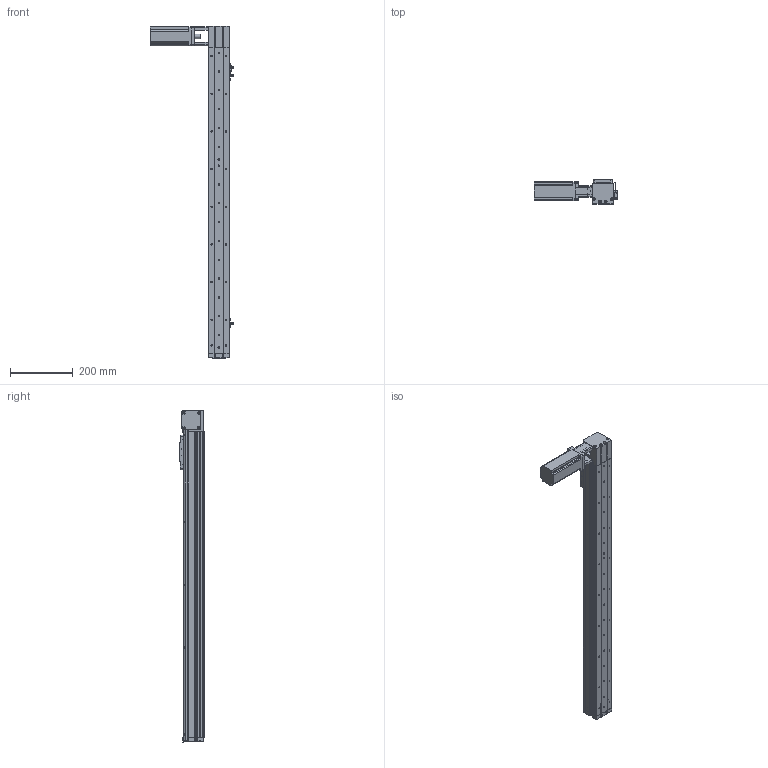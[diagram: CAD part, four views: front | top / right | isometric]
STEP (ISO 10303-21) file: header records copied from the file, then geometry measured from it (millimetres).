
FILE_DESCRIPTION (( 'STEP AP214' ), '1' );
FILE_NAME ('KSD68BS-S800-MLT-CR.STEP', '2019-08-28T03:32:22', ( '微软用户' ), ( '微软中国' ), 'SwSTEP 2.0', 'SolidWorks 2014', '' );
FILE_SCHEMA (( 'AUTOMOTIVE_DESIGN' ));
Length unit declared in the file: millimetre
Products named in the file (13): KSD68BS 800行程侧板全封闭; 68宽单导轨全封闭同步带端板; 68单导轨全封闭同步带电机座右; 68单导轨全封闭同步带安装板; 感应片68宽全封闭; U倰嫖萇EEㄜSX672; 台达ECMA－C20604AS伺服电机（400W); KSD68BS 800行程底板全封闭; KSD68BS-S800-MLT-CR; 100遵鎮湛假蚾啣1; KSD68BS 800行程盖板全封闭; 68遵裔啣揤啣1; 68宽单导轨全封闭丝杆传动安装板1防护罩
Assembly tree (16 placements, depth 2):
  KSD68BS-S800-MLT-CR
    KSD68BS 800行程底板全封闭
    台达ECMA－C20604AS伺服电机（400W)
    U倰嫖萇EEㄜSX672  x3
    感应片68宽全封闭
    68单导轨全封闭同步带安装板
    68单导轨全封闭同步带电机座右
    68宽单导轨全封闭同步带端板
    KSD68BS 800行程侧板全封闭  x2
    68宽单导轨全封闭丝杆传动安装板1防护罩
    68遵裔啣揤啣1  x2
    KSD68BS 800行程盖板全封闭
    100遵鎮湛假蚾啣1
Bounding box: 266.4 x 77 x 1058.1 mm (x, y, z)
Volume: 2216405.4 mm3; surface area: 806699.7 mm2
Topology: 17 solids, 17 shells, 1414 faces, 4022 edges, 2571 vertices
Faces by surface type: cylinder 658, plane 600, cone 156
Entity records: 44697 total; most frequent: CARTESIAN_POINT 7577, DIRECTION 6656, ORIENTED_EDGE 6372, EDGE_CURVE 3186, AXIS2_PLACEMENT_3D 2396, VERTEX_POINT 2089, VECTOR 1864, LINE 1864
